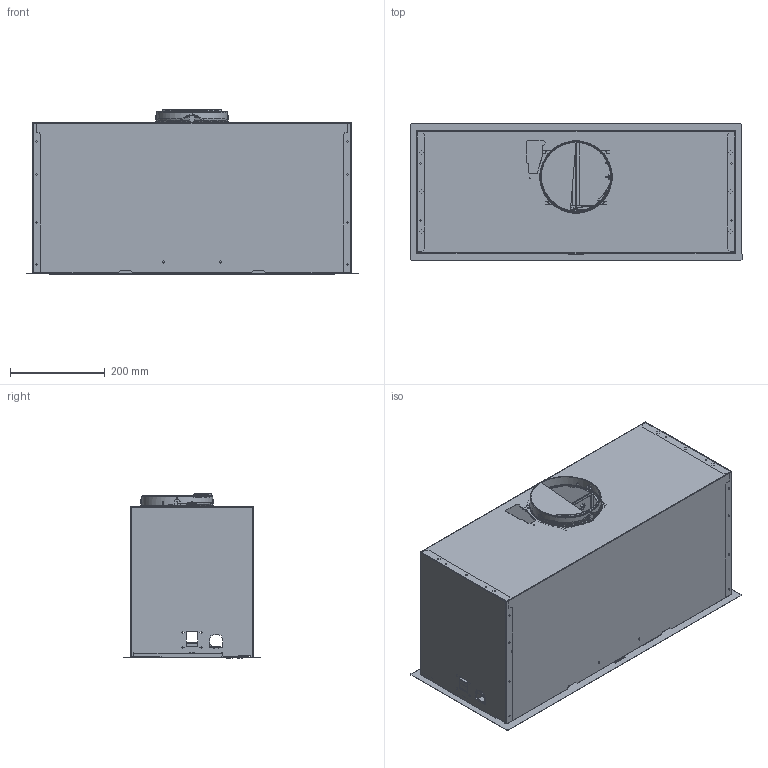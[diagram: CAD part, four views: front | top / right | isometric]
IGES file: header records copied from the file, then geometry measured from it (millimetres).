
Global section: file name: F:\_CONVERSIONE_CAD_2024_2025\03_3D kits new\07_Hoods\Solo Logo Piatto o 3D\3D001_Hoods_Box-Flush-Evo_FBFE-A70\3D001_Hoods_Box-Flush-Evo_FBFE-A70.igs; native system: Rhinoceros ( Jan  9 2024 ); preprocessor: Trout Lake IGES 012 Jan  9 2024; date: 240209.091858; units: millimetre
Bounding box: 700 x 290 x 346.6 mm (x, y, z)
Surface area: 2422140.1 mm2 (no closed solid volume)
Topology: 0 solids, 0 shells, 4440 faces, 26052 edges, 26023 vertices
Faces by surface type: bspline 4440
